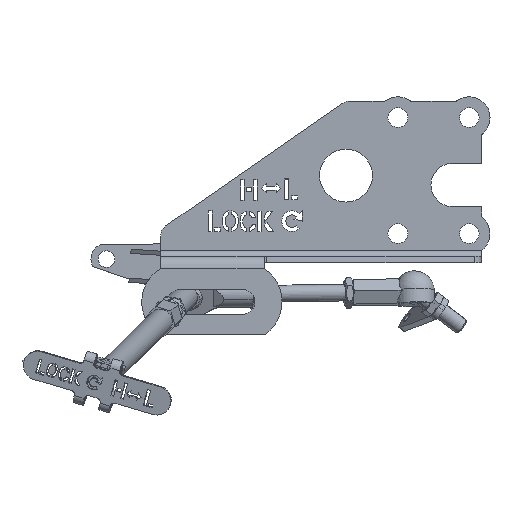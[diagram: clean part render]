
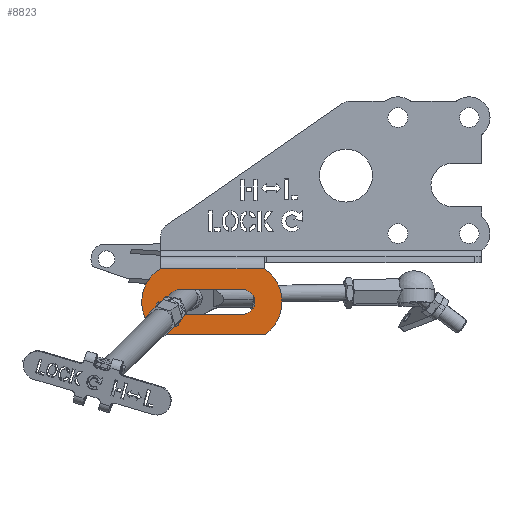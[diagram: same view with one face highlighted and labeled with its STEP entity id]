
A CAD part, top view. The second image highlights one B-rep face of the part: STEP entity #8823.
In plain terms, the highlighted planar face has unit normal (0, 0, 1).
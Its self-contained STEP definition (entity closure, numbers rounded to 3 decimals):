
#210=FACE_BOUND('',#1347,.T.);
#473=PLANE('',#9821);
#823=FACE_OUTER_BOUND('',#1346,.T.);
#1346=EDGE_LOOP('',(#6744,#6745,#6746,#6747,#6748,#6749));
#1347=EDGE_LOOP('',(#6750,#6751,#6752,#6753));
#2103=LINE('',#14050,#2977);
#2106=LINE('',#14058,#2980);
#2108=LINE('',#14063,#2982);
#2110=LINE('',#14073,#2984);
#2977=VECTOR('',#11326,10.);
#2980=VECTOR('',#11335,10.);
#2982=VECTOR('',#11343,10.);
#2984=VECTOR('',#11359,10.);
#3585=CIRCLE('',#9745,2.);
#3588=CIRCLE('',#9749,19.138);
#3593=CIRCLE('',#9756,2.);
#3594=CIRCLE('',#9758,18.608);
#3617=CIRCLE('',#9809,6.);
#3618=CIRCLE('',#9812,6.);
#4120=VERTEX_POINT('',#13871);
#4121=VERTEX_POINT('',#13872);
#4125=VERTEX_POINT('',#13882);
#4133=VERTEX_POINT('',#13902);
#4134=VERTEX_POINT('',#13903);
#4135=VERTEX_POINT('',#13908);
#4178=VERTEX_POINT('',#14047);
#4179=VERTEX_POINT('',#14049);
#4180=VERTEX_POINT('',#14053);
#4181=VERTEX_POINT('',#14057);
#5051=EDGE_CURVE('',#4120,#4121,#3585,.T.);
#5057=EDGE_CURVE('',#4120,#4125,#3588,.T.);
#5066=EDGE_CURVE('',#4133,#4134,#3593,.T.);
#5069=EDGE_CURVE('',#4135,#4134,#3594,.T.);
#5139=EDGE_CURVE('',#4179,#4178,#2103,.T.);
#5141=EDGE_CURVE('',#4180,#4179,#3617,.T.);
#5143=EDGE_CURVE('',#4181,#4180,#2106,.T.);
#5145=EDGE_CURVE('',#4178,#4181,#3618,.T.);
#5146=EDGE_CURVE('',#4125,#4135,#2108,.T.);
#5152=EDGE_CURVE('',#4121,#4133,#2110,.T.);
#6744=ORIENTED_EDGE('',*,*,#5051,.F.);
#6745=ORIENTED_EDGE('',*,*,#5057,.T.);
#6746=ORIENTED_EDGE('',*,*,#5146,.T.);
#6747=ORIENTED_EDGE('',*,*,#5069,.T.);
#6748=ORIENTED_EDGE('',*,*,#5066,.F.);
#6749=ORIENTED_EDGE('',*,*,#5152,.F.);
#6750=ORIENTED_EDGE('',*,*,#5139,.T.);
#6751=ORIENTED_EDGE('',*,*,#5145,.T.);
#6752=ORIENTED_EDGE('',*,*,#5143,.T.);
#6753=ORIENTED_EDGE('',*,*,#5141,.T.);
#8823=ADVANCED_FACE('',(#823,#210),#473,.T.);
#9745=AXIS2_PLACEMENT_3D('',#13873,#11144,#11145);
#9749=AXIS2_PLACEMENT_3D('',#13884,#11155,#11156);
#9756=AXIS2_PLACEMENT_3D('',#13904,#11173,#11174);
#9758=AXIS2_PLACEMENT_3D('',#13909,#11179,#11180);
#9809=AXIS2_PLACEMENT_3D('',#14054,#11330,#11331);
#9812=AXIS2_PLACEMENT_3D('',#14061,#11339,#11340);
#9821=AXIS2_PLACEMENT_3D('',#14074,#11360,#11361);
#11144=DIRECTION('center_axis',(0.,0.,
-1.));
#11145=DIRECTION('ref_axis',(0.303,-0.953,0.));
#11155=DIRECTION('center_axis',(0.,0.,
1.));
#11156=DIRECTION('ref_axis',(0.549,-0.836,0.));
#11173=DIRECTION('center_axis',(0.,0.,
-1.));
#11174=DIRECTION('ref_axis',(-0.28,-0.96,0.));
#11179=DIRECTION('center_axis',(0.,0.,
1.));
#11180=DIRECTION('ref_axis',(-0.511,0.86,0.));
#11326=DIRECTION('',(-1.,0.,0.));
#11330=DIRECTION('center_axis',(0.,0.,
-1.));
#11331=DIRECTION('ref_axis',(0.,-1.,0.));
#11335=DIRECTION('',(1.,0.,0.));
#11339=DIRECTION('center_axis',(0.,0.,
-1.));
#11340=DIRECTION('ref_axis',(0.,1.,0.));
#11343=DIRECTION('',(-1.,0.,0.));
#11359=DIRECTION('',(-1.,0.,0.));
#11360=DIRECTION('center_axis',(0.,0.,
1.));
#11361=DIRECTION('ref_axis',(0.,-1.,0.));
#13871=CARTESIAN_POINT('',(-98.462,-49.634,66.));
#13872=CARTESIAN_POINT('',(-99.616,-50.,66.));
#13873=CARTESIAN_POINT('Origin',(-99.616,-48.,66.));
#13882=CARTESIAN_POINT('',(-99.,-18.,66.));
#13884=CARTESIAN_POINT('Origin',(-109.5,-34.,66.));
#13902=CARTESIAN_POINT('',(-148.434,-50.,66.));
#13903=CARTESIAN_POINT('',(-149.51,-49.686,66.));
#13904=CARTESIAN_POINT('Origin',(-148.434,-48.,66.));
#13908=CARTESIAN_POINT('',(-149.,-18.,66.));
#13909=CARTESIAN_POINT('Origin',(-139.5,-34.,66.));
#14047=CARTESIAN_POINT('',(-139.5,-40.,66.));
#14049=CARTESIAN_POINT('',(-109.5,-40.,66.));
#14050=CARTESIAN_POINT('',(-131.75,-40.,66.));
#14053=CARTESIAN_POINT('',(-109.5,-28.,66.));
#14054=CARTESIAN_POINT('Origin',(-109.5,-34.,66.));
#14057=CARTESIAN_POINT('',(-139.5,-28.,66.));
#14058=CARTESIAN_POINT('',(-116.75,-28.,66.));
#14061=CARTESIAN_POINT('Origin',(-139.5,-34.,66.));
#14063=CARTESIAN_POINT('',(-124.,-18.,66.));
#14073=CARTESIAN_POINT('',(-99.,-50.,66.));
#14074=CARTESIAN_POINT('Origin',(-124.,-30.607,66.));
